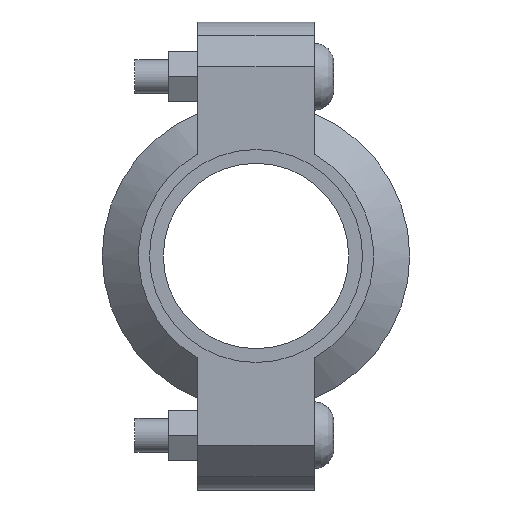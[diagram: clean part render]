
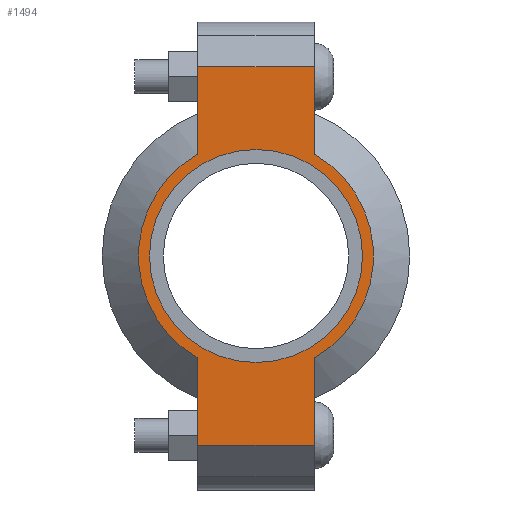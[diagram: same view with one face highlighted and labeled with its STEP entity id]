
A CAD part, left-side view. The second image highlights one B-rep face of the part: STEP entity #1494.
In plain terms, the highlighted planar face has unit normal (-1, 0, 0) as drawn and (0, 0, 1) by its records, which use the part's own axes.
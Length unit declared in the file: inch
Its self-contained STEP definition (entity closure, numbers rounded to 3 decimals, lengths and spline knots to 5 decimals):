
#118=LINE('',#2598,#211);
#126=LINE('',#2634,#219);
#133=LINE('',#2655,#226);
#142=LINE('',#2687,#235);
#143=LINE('',#2691,#236);
#144=LINE('',#2693,#237);
#211=VECTOR('',#2126,0.3937);
#219=VECTOR('',#2142,0.3937);
#226=VECTOR('',#2161,0.3937);
#235=VECTOR('',#2186,0.3937);
#236=VECTOR('',#2191,0.3937);
#237=VECTOR('',#2192,0.3937);
#293=FACE_BOUND('',#471,.T.);
#365=FACE_OUTER_BOUND('',#470,.T.);
#470=EDGE_LOOP('',(#1235,#1236,#1237,#1238,#1239,#1240,#1241,#1242));
#471=EDGE_LOOP('',(#1243));
#543=CIRCLE('',#1704,1.1875);
#569=CIRCLE('',#1763,1.31);
#570=CIRCLE('',#1764,1.31);
#635=VERTEX_POINT('',#2414);
#678=VERTEX_POINT('',#2595);
#679=VERTEX_POINT('',#2597);
#690=VERTEX_POINT('',#2629);
#691=VERTEX_POINT('',#2633);
#698=VERTEX_POINT('',#2652);
#699=VERTEX_POINT('',#2654);
#709=VERTEX_POINT('',#2690);
#710=VERTEX_POINT('',#2692);
#791=EDGE_CURVE('',#635,#635,#543,.T.);
#852=EDGE_CURVE('',#679,#678,#118,.T.);
#866=EDGE_CURVE('',#691,#690,#126,.T.);
#876=EDGE_CURVE('',#699,#698,#133,.T.);
#891=EDGE_CURVE('',#691,#678,#142,.T.);
#892=EDGE_CURVE('',#690,#699,#569,.T.);
#893=EDGE_CURVE('',#709,#698,#143,.T.);
#894=EDGE_CURVE('',#709,#710,#144,.T.);
#895=EDGE_CURVE('',#710,#679,#570,.T.);
#1235=ORIENTED_EDGE('',*,*,#891,.F.);
#1236=ORIENTED_EDGE('',*,*,#866,.T.);
#1237=ORIENTED_EDGE('',*,*,#892,.T.);
#1238=ORIENTED_EDGE('',*,*,#876,.T.);
#1239=ORIENTED_EDGE('',*,*,#893,.F.);
#1240=ORIENTED_EDGE('',*,*,#894,.T.);
#1241=ORIENTED_EDGE('',*,*,#895,.T.);
#1242=ORIENTED_EDGE('',*,*,#852,.T.);
#1243=ORIENTED_EDGE('',*,*,#791,.T.);
#1336=PLANE('',#1762);
#1494=ADVANCED_FACE('',(#365,#293),#1336,.T.);
#1704=AXIS2_PLACEMENT_3D('',#2416,#2002,#2003);
#1762=AXIS2_PLACEMENT_3D('',#2688,#2187,#2188);
#1763=AXIS2_PLACEMENT_3D('',#2689,#2189,#2190);
#1764=AXIS2_PLACEMENT_3D('',#2694,#2193,#2194);
#2002=DIRECTION('center_axis',(0.,0.,-1.));
#2003=DIRECTION('ref_axis',(-1.,0.,0.));
#2126=DIRECTION('',(-1.,0.,0.));
#2142=DIRECTION('',(1.,0.,0.));
#2161=DIRECTION('',(1.,0.,0.));
#2186=DIRECTION('',(0.,1.,0.));
#2187=DIRECTION('center_axis',(0.,0.,1.));
#2188=DIRECTION('ref_axis',(1.,0.,0.));
#2189=DIRECTION('center_axis',(0.,0.,1.));
#2190=DIRECTION('ref_axis',(-1.,0.,0.));
#2191=DIRECTION('',(0.,-1.,0.));
#2192=DIRECTION('',(-1.,0.,0.));
#2193=DIRECTION('center_axis',(0.,0.,1.));
#2194=DIRECTION('ref_axis',(-1.,0.,0.));
#2414=CARTESIAN_POINT('',(1.1875,0.,0.94));
#2416=CARTESIAN_POINT('Origin',(0.,0.,0.94));
#2595=CARTESIAN_POINT('',(-2.11,0.65,0.94));
#2597=CARTESIAN_POINT('',(-1.13737,0.65,0.94));
#2598=CARTESIAN_POINT('',(-2.61,0.65,0.94));
#2629=CARTESIAN_POINT('',(-1.13737,-0.65,0.94));
#2633=CARTESIAN_POINT('',(-2.11,-0.65,0.94));
#2634=CARTESIAN_POINT('',(2.61,-0.65,0.94));
#2652=CARTESIAN_POINT('',(2.11,-0.65,0.94));
#2654=CARTESIAN_POINT('',(1.13737,-0.65,0.94));
#2655=CARTESIAN_POINT('',(2.61,-0.65,0.94));
#2687=CARTESIAN_POINT('',(-2.11,0.325,0.94));
#2688=CARTESIAN_POINT('Origin',(0.,0.,0.94));
#2689=CARTESIAN_POINT('Origin',(0.,0.,0.94));
#2690=CARTESIAN_POINT('',(2.11,0.65,0.94));
#2691=CARTESIAN_POINT('',(2.11,-0.325,0.94));
#2692=CARTESIAN_POINT('',(1.13737,0.65,0.94));
#2693=CARTESIAN_POINT('',(-2.61,0.65,0.94));
#2694=CARTESIAN_POINT('Origin',(0.,0.,0.94));
